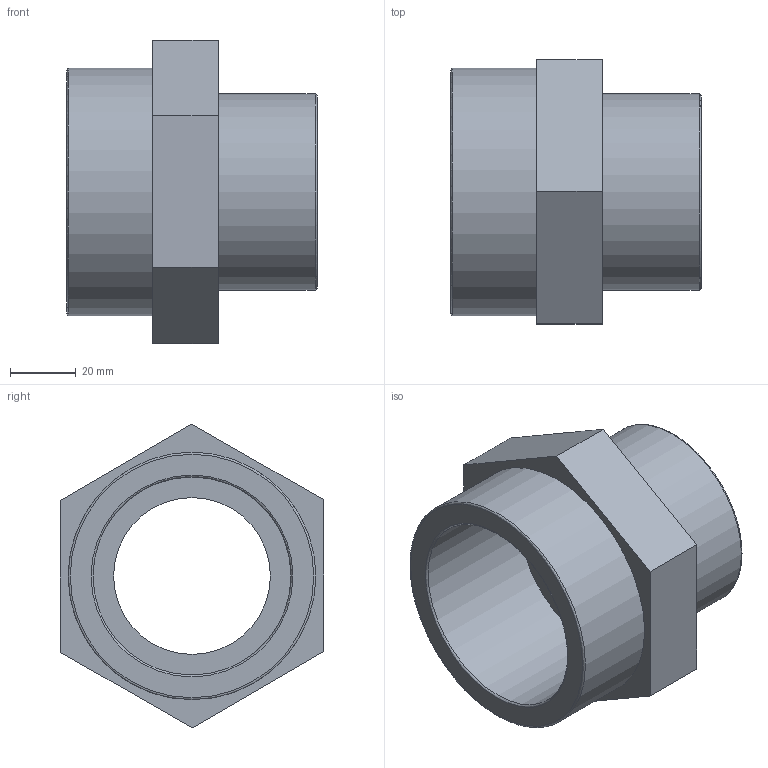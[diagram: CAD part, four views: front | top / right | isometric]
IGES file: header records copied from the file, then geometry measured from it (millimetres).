
Global section: file name: 051601025020.ipt; native system: Autodesk Inventor 2015; preprocessor: unknown; author: KIM; date: 20171207.165307; units: millimetre
Bounding box: 76 x 80.17 x 92.38 mm (x, y, z)
Volume: 131995.5 mm3; surface area: 37571.6 mm2
Topology: 1 solids, 1 shells, 19 faces, 50 edges, 36 vertices
Faces by surface type: plane 11, revolution 6, cylinder 2
Full cylindrical faces by diameter (mm): 59.614 x1, 75.184 x1
